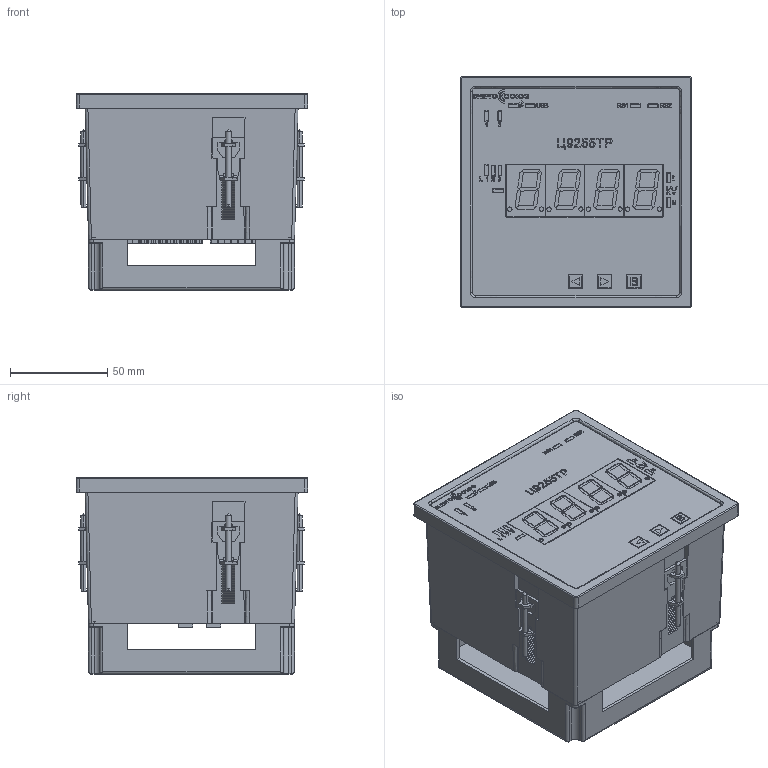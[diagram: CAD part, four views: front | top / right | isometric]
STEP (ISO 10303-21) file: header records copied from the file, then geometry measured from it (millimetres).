
FILE_DESCRIPTION (( 'STEP AP214' ), '1' );
FILE_NAME ('ñ9255tr_1c_120x120x103.STEP', '2025-01-17T08:42:18', ( '' ), ( '' ), 'SwSTEP 2.0', 'SolidWorks 2021', '' );
FILE_SCHEMA (( 'AUTOMOTIVE_DESIGN' ));
Length unit declared in the file: millimetre
Products named in the file (44): User Library-Micro USB_typeB_10118192-0001LF FCI; 櫻蠉錪5^DG271R-5.0-2-x; 15EDGRC-3.5-06P; Êîïèÿ 15EDGRC-3.5-06P^ñ9255tr_1c; Êîïèÿ Êîïèÿ red-led-with-border^ñ9255tr_1c_step; Êîïèÿ Êîïèÿ Êîïèÿ ïåðåäíÿÿ_ïàíåëü^ñ9255tr_1c_step; Êîïèÿ (7) Êîïèÿ indicator-FYS-8011^ñ9255tr_1c_step; Êîïèÿ 15EDGVC-3.5-sidewall^Êîïèÿ 15EDGRC-3.5-06P_ñ9255tr_1c; 3-input-label^ñ9255tr_1c_step; Êîïèÿ no-color-led-5^ñ9255tr_1c; RS-485-label^ñ9255tr_1c_step; Çàäíÿÿ êðûøêà ÖÔ9285; orange-led_step; body_elc_120x120x103_step; Êîïèÿ (2) no-color-led-5^ñ9255tr_1c; blue-led-5_step; 15EDGRC-3.5-01P; DG271R-body; Êîïèÿ 15EDGVC-3.5-sidewall^15EDGRC-3.5-04P; DG271R-5.0-2-x; Âèíò äëÿ ñêîáû ÖÔ9285_step; 15EDGRC-3.5-04P; Êîïèÿ (6) Êîïèÿ indicator-FYS-8011^ñ9255tr_1c_step; Êîïèÿ mark-FYS-8011^Êîïèÿ (7) Êîïèÿ indicator-FYS-8011_ñ9255tr_1c_step; Êîïèÿ mark-FYS-8011^Êîïèÿ (5) Êîïèÿ indicator-FYS-8011_ñ9255tr_1c_step; border_for_body_elc_120x120x103; indicator-FYS-8011_step; ñêîáà-1; indicator-FYS-8011; 櫻蠉錪2^DG271R-5.0-2-x; Êîïèÿ mark-FYS-8011^Êîïèÿ (6) Êîïèÿ indicator-FYS-8011_ñ9255tr_1c_step; Êîïèÿ Ñáîðêà ñêîáà ÖÔ9285^ñ9255tr_1c_step; Êîïèÿ mark-FYS-8011^Êîïèÿ (8) Êîïèÿ indicator-FYS-8011_ñ9255tr_1c_step; 15EDGVC-3.5-sidewall; Ñêîáà ÖÔ9285; 櫻蠉錪6^DG271R-5.0-2-x; main-upper-label^ñ9255tr_1c_step; green-led-5_step; Êîïèÿ (5) Êîïèÿ indicator-FYS-8011^ñ9255tr_1c_step; ñêîáà-2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
Assembly tree (74 placements, depth 3):
  Êîïèÿ mark-FYS-8011^Êîïèÿ (7) Êîïèÿ indicator-FYS-8011_ñ9255tr_1c_step
  Êîïèÿ mark-FYS-8011^Êîïèÿ (5) Êîïèÿ indicator-FYS-8011_ñ9255tr_1c_step
  Êîïèÿ mark-FYS-8011^Êîïèÿ (6) Êîïèÿ indicator-FYS-8011_ñ9255tr_1c_step
  Êîïèÿ mark-FYS-8011^Êîïèÿ (8) Êîïèÿ indicator-FYS-8011_ñ9255tr_1c_step
  櫻蠉錪6^DG271R-5.0-2-x
Bounding box: 119 x 119 x 101.11 mm (x, y, z)
Volume: 164114.7 mm3; surface area: 213837.1 mm2
Topology: 244 solids, 244 shells, 7726 faces, 19756 edges, 12760 vertices
Faces by surface type: plane 5205, cylinder 1423, bspline 898, cone 144, sphere 44, torus 12
Entity records: 213269 total; most frequent: CARTESIAN_POINT 80134, ORIENTED_EDGE 24526, DIRECTION 18395, EDGE_CURVE 12263, LINE 8309, VECTOR 8309, VERTEX_POINT 8018, EDGE_LOOP 5125
